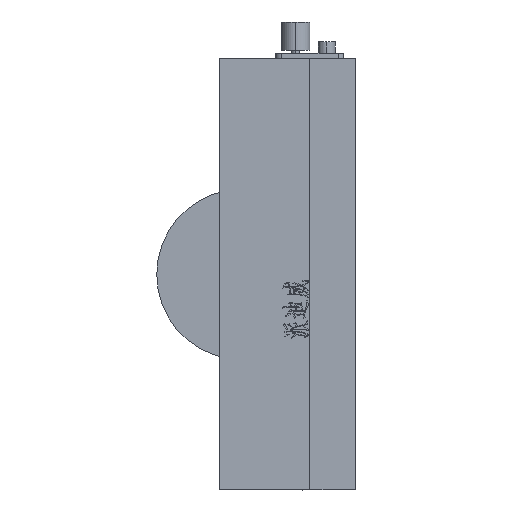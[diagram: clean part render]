
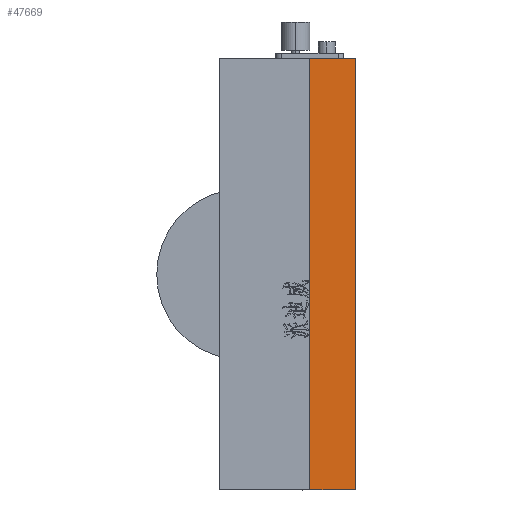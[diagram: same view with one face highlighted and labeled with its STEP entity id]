
A CAD part, left-side view. The second image highlights one B-rep face of the part: STEP entity #47669.
In plain terms, the highlighted planar face has unit normal (-1, 0, 0).
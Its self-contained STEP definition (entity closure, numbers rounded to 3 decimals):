
#877 = VERTEX_POINT ( 'NONE', #25736 ) ;
#2792 = AXIS2_PLACEMENT_3D ( 'NONE', #40832, #18392, #7247 ) ;
#4413 = ORIENTED_EDGE ( 'NONE', *, *, #26057, .F. ) ;
#4523 = DIRECTION ( 'NONE',  ( 0., 0., 1. ) ) ;
#5150 = CARTESIAN_POINT ( 'NONE',  ( -38., 8., -38. ) ) ;
#6640 = FACE_OUTER_BOUND ( 'NONE', #34252, .T. ) ;
#7247 = DIRECTION ( 'NONE',  ( 0., 0., -1. ) ) ;
#9052 = DIRECTION ( 'NONE',  ( 0., -1., 0. ) ) ;
#9926 = EDGE_CURVE ( 'NONE', #38825, #26669, #19630, .T. ) ;
#11657 = VECTOR ( 'NONE', #30728, 1000. ) ;
#12312 = CARTESIAN_POINT ( 'NONE',  ( -38., 0., 38. ) ) ;
#15612 = CARTESIAN_POINT ( 'NONE',  ( -38., 8., 38. ) ) ;
#18392 = DIRECTION ( 'NONE',  ( 1., 0., 0. ) ) ;
#18463 = LINE ( 'NONE', #15612, #37771 ) ;
#19350 = ORIENTED_EDGE ( 'NONE', *, *, #22880, .F. ) ;
#19630 = LINE ( 'NONE', #27381, #26066 ) ;
#19880 = LINE ( 'NONE', #20090, #45008 ) ;
#20090 = CARTESIAN_POINT ( 'NONE',  ( -38., 8., 38. ) ) ;
#22776 = CARTESIAN_POINT ( 'NONE',  ( -38., 0., -38. ) ) ;
#22880 = EDGE_CURVE ( 'NONE', #38825, #877, #19880, .T. ) ;
#25736 = CARTESIAN_POINT ( 'NONE',  ( -38., 8., 38. ) ) ;
#26057 = EDGE_CURVE ( 'NONE', #877, #31254, #18463, .T. ) ;
#26066 = VECTOR ( 'NONE', #9052, 1000. ) ;
#26669 = VERTEX_POINT ( 'NONE', #22776 ) ;
#26992 = ORIENTED_EDGE ( 'NONE', *, *, #38744, .T. ) ;
#27381 = CARTESIAN_POINT ( 'NONE',  ( -38., 8., -38. ) ) ;
#30728 = DIRECTION ( 'NONE',  ( 0., 0., 1. ) ) ;
#31254 = VERTEX_POINT ( 'NONE', #12312 ) ;
#33430 = ORIENTED_EDGE ( 'NONE', *, *, #9926, .T. ) ;
#34143 = DIRECTION ( 'NONE',  ( 0., -1., 0. ) ) ;
#34252 = EDGE_LOOP ( 'NONE', ( #26992, #4413, #19350, #33430 ) ) ;
#34493 = LINE ( 'NONE', #46244, #11657 ) ;
#37771 = VECTOR ( 'NONE', #34143, 1000. ) ;
#38744 = EDGE_CURVE ( 'NONE', #26669, #31254, #34493, .T. ) ;
#38825 = VERTEX_POINT ( 'NONE', #5150 ) ;
#40832 = CARTESIAN_POINT ( 'NONE',  ( -38., 8., 38. ) ) ;
#44890 = PLANE ( 'NONE',  #2792 ) ;
#45008 = VECTOR ( 'NONE', #4523, 1000. ) ;
#46244 = CARTESIAN_POINT ( 'NONE',  ( -38., 0., 38. ) ) ;
#47669 = ADVANCED_FACE ( 'NONE', ( #6640 ), #44890, .F. ) ;
